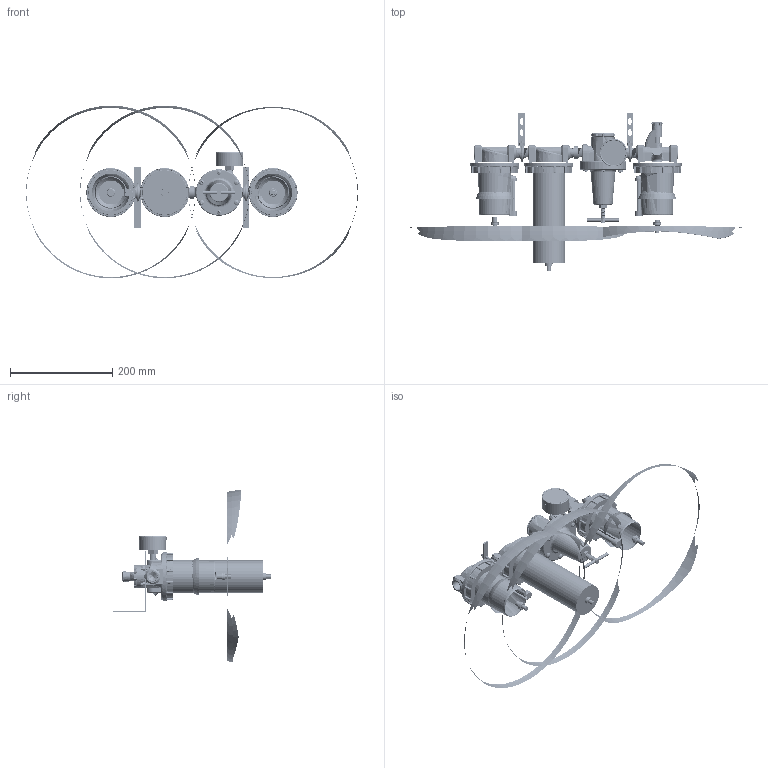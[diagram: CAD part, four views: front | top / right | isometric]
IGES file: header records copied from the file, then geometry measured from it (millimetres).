
Start section: SolidWorks IGES file using analytic representation for surfaces
Global section: file name: D:\Custom\3D繪製\FRL\FSRL系列\A728#W#-04YB#.IGS; native system: SolidWorks 2014; preprocessor: SolidWorks 2014; author: Chieh_Lu; date: 160115.014636; units: millimetre
Bounding box: 648.09 x 308.7 x 337.13 mm (x, y, z)
Surface area: 351058.9 mm2 (no closed solid volume)
Topology: 0 solids, 0 shells, 2134 faces, 27359 edges, 27322 vertices
Faces by surface type: bspline 1171, revolution 963
